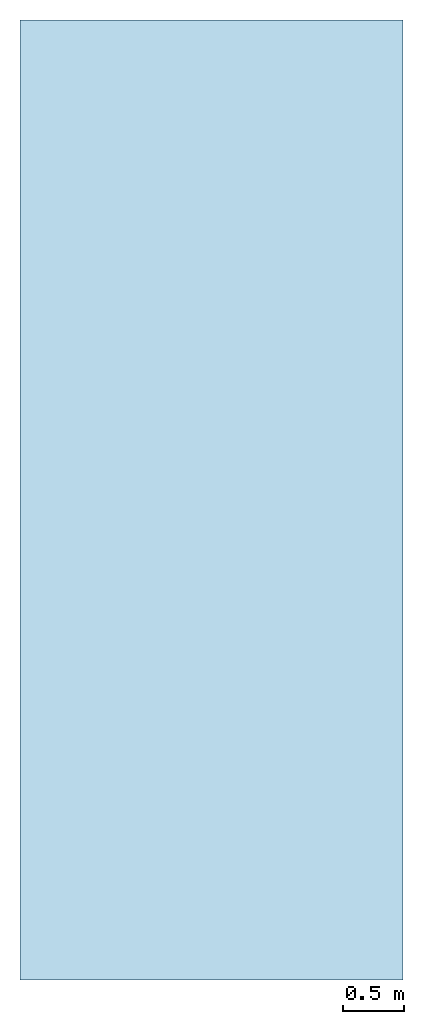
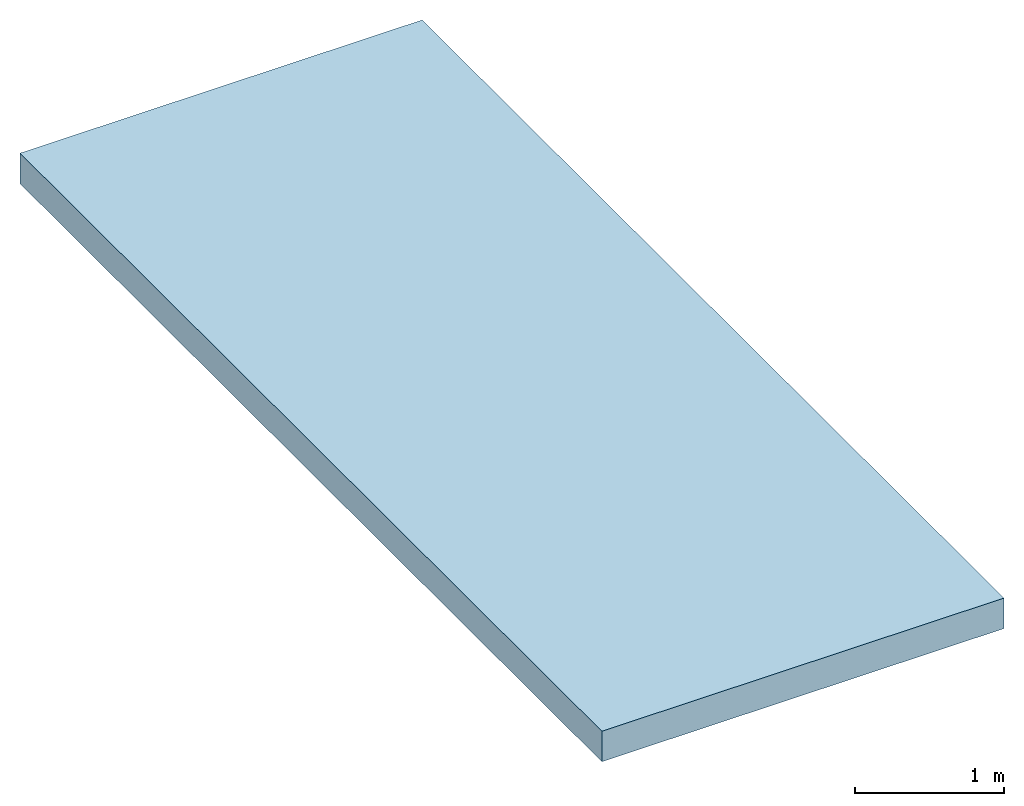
# One storey: 1 slab.
"""IFC2X3 building model written with IfcOpenShell, lengths in metres."""

from ifc_helpers import new_model, entity, si_unit, converted_unit, derived_unit, direction, frame, frame_2d, origin, place, context, subcontext, project, spatial, rectangle, extrude, material, layer, layer_set, layer_usage, type_object, element, save


model = new_model("IFC2X3")

# Units and contexts
model_context = context("Model", 3, precision=1e-05, world=origin(), true_north=direction((6.12303176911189e-17, 1.0)))
body_context = subcontext(model_context, "Body", "Model", "MODEL_VIEW")
ifc_project = project(units=[si_unit("LENGTHUNIT", "METRE"), si_unit("AREAUNIT", "SQUARE_METRE"), si_unit("VOLUMEUNIT", "CUBIC_METRE"), converted_unit("PLANEANGLEUNIT", "DEGREE", entity("IfcRatioMeasure", 0.0174532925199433), si_unit("PLANEANGLEUNIT", "RADIAN"), dimensions=[0, 0, 0, 0, 0, 0, 0]), si_unit("MASSUNIT", "GRAM", prefix="KILO"), derived_unit("MASSDENSITYUNIT", [(si_unit("MASSUNIT", "GRAM", prefix="KILO"), 1), (si_unit("LENGTHUNIT", "METRE"), -3)]), derived_unit("MOMENTOFINERTIAUNIT", [(si_unit("LENGTHUNIT", "METRE"), 4)]), si_unit("TIMEUNIT", "SECOND"), si_unit("FREQUENCYUNIT", "HERTZ"), si_unit("THERMODYNAMICTEMPERATUREUNIT", "DEGREE_CELSIUS"), derived_unit("THERMALTRANSMITTANCEUNIT", [(si_unit("MASSUNIT", "GRAM", prefix="KILO"), 1), (si_unit("THERMODYNAMICTEMPERATUREUNIT", "KELVIN"), -1), (si_unit("TIMEUNIT", "SECOND"), -3)]), derived_unit("VOLUMETRICFLOWRATEUNIT", [(si_unit("LENGTHUNIT", "METRE"), 3), (si_unit("TIMEUNIT", "SECOND"), -1)]), si_unit("ELECTRICCURRENTUNIT", "AMPERE"), si_unit("ELECTRICVOLTAGEUNIT", "VOLT"), si_unit("POWERUNIT", "WATT"), si_unit("FORCEUNIT", "NEWTON", prefix="KILO"), si_unit("ILLUMINANCEUNIT", "LUX"), si_unit("LUMINOUSFLUXUNIT", "LUMEN"), si_unit("LUMINOUSINTENSITYUNIT", "CANDELA"), derived_unit("USERDEFINED", [(si_unit("MASSUNIT", "GRAM", prefix="KILO"), -1), (si_unit("LENGTHUNIT", "METRE"), -2), (si_unit("TIMEUNIT", "SECOND"), 3), (si_unit("LUMINOUSFLUXUNIT", "LUMEN"), 1)]), derived_unit("LINEARVELOCITYUNIT", [(si_unit("LENGTHUNIT", "METRE"), 1), (si_unit("TIMEUNIT", "SECOND"), -1)]), si_unit("PRESSUREUNIT", "PASCAL"), derived_unit("USERDEFINED", [(si_unit("LENGTHUNIT", "METRE"), -2), (si_unit("MASSUNIT", "GRAM", prefix="KILO"), 1), (si_unit("TIMEUNIT", "SECOND"), -2)]), derived_unit("LINEARFORCEUNIT", [(si_unit("MASSUNIT", "GRAM", prefix="KILO"), 1), (si_unit("LENGTHUNIT", "METRE"), 1), (si_unit("TIMEUNIT", "SECOND"), -2), (si_unit("LENGTHUNIT", "METRE"), -1)]), derived_unit("PLANARFORCEUNIT", [(si_unit("MASSUNIT", "GRAM", prefix="KILO"), 1), (si_unit("LENGTHUNIT", "METRE"), 1), (si_unit("TIMEUNIT", "SECOND"), -2), (si_unit("LENGTHUNIT", "METRE"), -2)])], contexts=[model_context])

# Site, building, storey
site_placement = place(None, origin())
site = spatial("IfcSite", under=ifc_project, at=site_placement, Name="Surface", CompositionType="ELEMENT")
building_placement = place(site_placement, origin())
building = spatial("IfcBuilding", under=site, at=building_placement, CompositionType="ELEMENT")
storey_placement = place(building_placement, frame((0.0, 0.0, -0.469999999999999)))
storey = spatial("IfcBuildingStorey", under=building, at=storey_placement, Name="GARAGE", CompositionType="ELEMENT", Elevation=-0.469999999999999)

# Slab
ifc_material = material(Name="Maçonnerie - Béton")
ifc_layer = layer(ifc_material, 0.25)
ifc_layer_set = layer_set([ifc_layer], Name="Sol:Dalle en béton - 250 mm")
ifc_layer_usage = layer_usage(ifc_layer_set, "AXIS3", "POSITIVE", 0.0)
slab_type = type_object("IfcSlabType", Name="Sol:Dalle en béton - 250 mm", PredefinedType="FLOOR", material=ifc_layer_set)
slab_placement = place(storey_placement, origin())
element("IfcSlab", 1, at=slab_placement, inside=storey, type_object=slab_type, material=ifc_layer_usage, Name="Sol:Dalle en béton - 250 mm", ObjectType="Sol:Dalle en béton - 250 mm", PredefinedType="FLOOR", context=body_context, shape_type="SweptSolid", body=[
    extrude(rectangle(XDim=7.82000000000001, YDim=3.11999999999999, at=frame_2d((0.0, 1.11022302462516e-15), x_axis=(1.0, 0.0))), frame((-19.8482926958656, 7.44737977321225, 0.0), z_axis=(0.0, 0.0, -1.0), x_axis=(0.0, 1.0, 0.0)), (0.0, 0.0, 1.0), 0.25),
])

save(model, "model.ifc")
